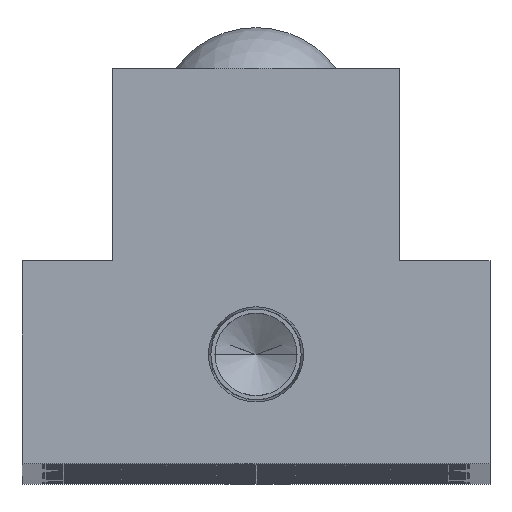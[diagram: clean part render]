
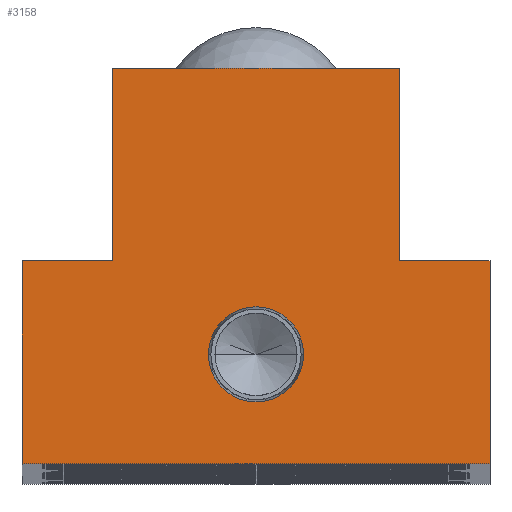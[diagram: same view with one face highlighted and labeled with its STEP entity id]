
A CAD part, top view. The second image highlights one B-rep face of the part: STEP entity #3158.
In plain terms, the highlighted planar face has unit normal (0, 0, 1).
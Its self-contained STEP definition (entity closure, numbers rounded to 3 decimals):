
#211 = CARTESIAN_POINT ( 'NONE',  ( -4.574, 10.5, 0. ) ) ;
#273 = CARTESIAN_POINT ( 'NONE',  ( 0., 0., 0. ) ) ;
#661 = CARTESIAN_POINT ( 'NONE',  ( 0., 10.5, 0. ) ) ;
#741 = CARTESIAN_POINT ( 'NONE',  ( 22.5, 0., 0. ) ) ;
#932 = VERTEX_POINT ( 'NONE', #2968 ) ;
#1236 = LINE ( 'NONE', #20778, #9495 ) ;
#1300 = VECTOR ( 'NONE', #3812, 1000. ) ;
#1572 = ORIENTED_EDGE ( 'NONE', *, *, #6195, .F. ) ;
#1808 = LINE ( 'NONE', #15128, #1300 ) ;
#1954 = DIRECTION ( 'NONE',  ( 0., 0., -1. ) ) ;
#2144 = CARTESIAN_POINT ( 'NONE',  ( 13.75, 38., 0. ) ) ;
#2333 = DIRECTION ( 'NONE',  ( 1., 0., 0. ) ) ;
#2359 = ORIENTED_EDGE ( 'NONE', *, *, #11367, .T. ) ;
#2866 = FACE_BOUND ( 'NONE', #16334, .T. ) ;
#2968 = CARTESIAN_POINT ( 'NONE',  ( 22.5, 19.5, 0. ) ) ;
#3158 = ADVANCED_FACE ( 'NONE', ( #2866, #20414 ), #11753, .F. ) ;
#3745 = CARTESIAN_POINT ( 'NONE',  ( -22.5, 0., 0. ) ) ;
#3770 = ORIENTED_EDGE ( 'NONE', *, *, #20236, .T. ) ;
#3812 = DIRECTION ( 'NONE',  ( -1., 0., 0. ) ) ;
#4164 = ORIENTED_EDGE ( 'NONE', *, *, #7017, .T. ) ;
#4450 = CARTESIAN_POINT ( 'NONE',  ( -13.75, 38., 0. ) ) ;
#4695 = DIRECTION ( 'NONE',  ( 0., 0., 1. ) ) ;
#4815 = EDGE_CURVE ( 'NONE', #17833, #9607, #1236, .T. ) ;
#5153 = AXIS2_PLACEMENT_3D ( 'NONE', #14389, #4695, #15964 ) ;
#5563 = DIRECTION ( 'NONE',  ( 0., -1., 0. ) ) ;
#5857 = EDGE_CURVE ( 'NONE', #9607, #15293, #13698, .T. ) ;
#6195 = EDGE_CURVE ( 'NONE', #18611, #8423, #15153, .T. ) ;
#6259 = VECTOR ( 'NONE', #14778, 1000. ) ;
#6525 = DIRECTION ( 'NONE',  ( 0., -1., 0. ) ) ;
#6827 = ORIENTED_EDGE ( 'NONE', *, *, #14467, .T. ) ;
#6934 = LINE ( 'NONE', #10306, #11769 ) ;
#6939 = ORIENTED_EDGE ( 'NONE', *, *, #4815, .T. ) ;
#7010 = DIRECTION ( 'NONE',  ( 1., 0., 0. ) ) ;
#7017 = EDGE_CURVE ( 'NONE', #15293, #18664, #20831, .T. ) ;
#7285 = AXIS2_PLACEMENT_3D ( 'NONE', #273, #1954, #13348 ) ;
#7445 = VECTOR ( 'NONE', #11943, 1000. ) ;
#8423 = VERTEX_POINT ( 'NONE', #10242 ) ;
#8933 = EDGE_LOOP ( 'NONE', ( #12344, #2359, #3770, #6827, #6939, #10547, #4164, #16599 ) ) ;
#9495 = VECTOR ( 'NONE', #6525, 1000. ) ;
#9607 = VERTEX_POINT ( 'NONE', #15932 ) ;
#9844 = AXIS2_PLACEMENT_3D ( 'NONE', #661, #12122, #2333 ) ;
#9914 = CARTESIAN_POINT ( 'NONE',  ( -22.5, 19.5, 0. ) ) ;
#9986 = CARTESIAN_POINT ( 'NONE',  ( 13.75, 38., 0. ) ) ;
#10099 = LINE ( 'NONE', #16353, #6259 ) ;
#10242 = CARTESIAN_POINT ( 'NONE',  ( 4.574, 10.5, 0. ) ) ;
#10306 = CARTESIAN_POINT ( 'NONE',  ( 22.5, 0., 0. ) ) ;
#10434 = CARTESIAN_POINT ( 'NONE',  ( -22.5, 19.5, 0. ) ) ;
#10547 = ORIENTED_EDGE ( 'NONE', *, *, #5857, .T. ) ;
#10899 = CARTESIAN_POINT ( 'NONE',  ( 13.75, 19.5, 0. ) ) ;
#10941 = LINE ( 'NONE', #17425, #18823 ) ;
#11367 = EDGE_CURVE ( 'NONE', #932, #19363, #10099, .T. ) ;
#11551 = VERTEX_POINT ( 'NONE', #741 ) ;
#11753 = PLANE ( 'NONE',  #7285 ) ;
#11769 = VECTOR ( 'NONE', #7010, 1000. ) ;
#11943 = DIRECTION ( 'NONE',  ( 0., 1., 0. ) ) ;
#12122 = DIRECTION ( 'NONE',  ( 0., 0., 1. ) ) ;
#12293 = CARTESIAN_POINT ( 'NONE',  ( -13.75, 19.5, 0. ) ) ;
#12344 = ORIENTED_EDGE ( 'NONE', *, *, #18350, .T. ) ;
#13348 = DIRECTION ( 'NONE',  ( -1., 0., 0. ) ) ;
#13517 = EDGE_CURVE ( 'NONE', #8423, #18611, #17517, .T. ) ;
#13698 = LINE ( 'NONE', #12293, #16882 ) ;
#14389 = CARTESIAN_POINT ( 'NONE',  ( 0., 10.5, 0. ) ) ;
#14467 = EDGE_CURVE ( 'NONE', #15320, #17833, #1808, .T. ) ;
#14778 = DIRECTION ( 'NONE',  ( -1., 0., 0. ) ) ;
#15128 = CARTESIAN_POINT ( 'NONE',  ( -13.75, 38., 0. ) ) ;
#15153 = CIRCLE ( 'NONE', #5153, 4.574 ) ;
#15293 = VERTEX_POINT ( 'NONE', #9914 ) ;
#15320 = VERTEX_POINT ( 'NONE', #9986 ) ;
#15466 = LINE ( 'NONE', #2144, #7445 ) ;
#15469 = DIRECTION ( 'NONE',  ( -1., 0., 0. ) ) ;
#15845 = DIRECTION ( 'NONE',  ( 0., 1., 0. ) ) ;
#15932 = CARTESIAN_POINT ( 'NONE',  ( -13.75, 19.5, 0. ) ) ;
#15964 = DIRECTION ( 'NONE',  ( 1., 0., 0. ) ) ;
#16334 = EDGE_LOOP ( 'NONE', ( #19538, #1572 ) ) ;
#16353 = CARTESIAN_POINT ( 'NONE',  ( 22.5, 19.5, 0. ) ) ;
#16599 = ORIENTED_EDGE ( 'NONE', *, *, #19760, .T. ) ;
#16673 = VECTOR ( 'NONE', #5563, 1000. ) ;
#16882 = VECTOR ( 'NONE', #15469, 1000. ) ;
#17425 = CARTESIAN_POINT ( 'NONE',  ( 22.5, 19.5, 0. ) ) ;
#17517 = CIRCLE ( 'NONE', #9844, 4.574 ) ;
#17833 = VERTEX_POINT ( 'NONE', #4450 ) ;
#18350 = EDGE_CURVE ( 'NONE', #11551, #932, #10941, .T. ) ;
#18611 = VERTEX_POINT ( 'NONE', #211 ) ;
#18664 = VERTEX_POINT ( 'NONE', #3745 ) ;
#18823 = VECTOR ( 'NONE', #15845, 1000. ) ;
#19363 = VERTEX_POINT ( 'NONE', #10899 ) ;
#19538 = ORIENTED_EDGE ( 'NONE', *, *, #13517, .F. ) ;
#19760 = EDGE_CURVE ( 'NONE', #18664, #11551, #6934, .T. ) ;
#20236 = EDGE_CURVE ( 'NONE', #19363, #15320, #15466, .T. ) ;
#20414 = FACE_OUTER_BOUND ( 'NONE', #8933, .T. ) ;
#20778 = CARTESIAN_POINT ( 'NONE',  ( -13.75, 38., 0. ) ) ;
#20831 = LINE ( 'NONE', #10434, #16673 ) ;
